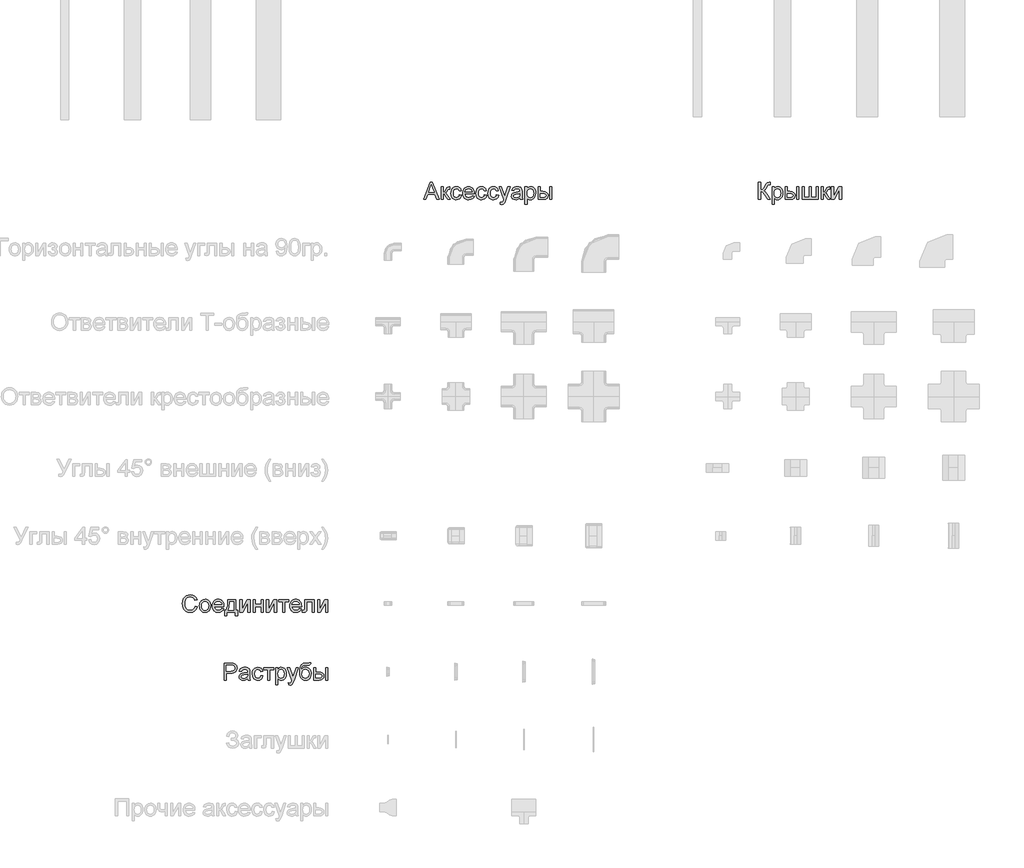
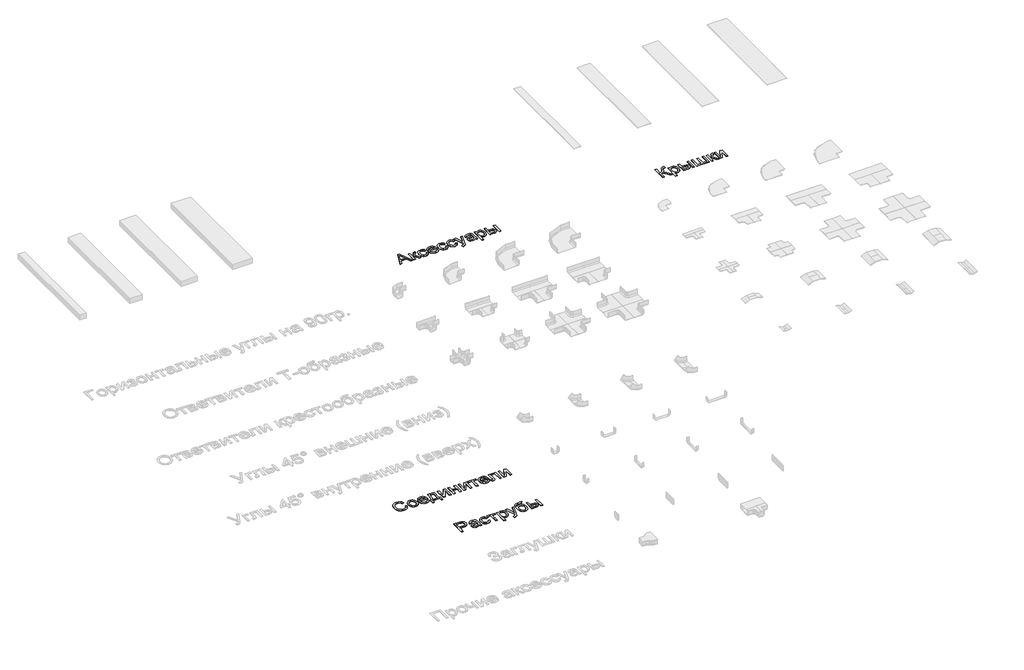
# One storey, part 9 of 11: 4 proxies.
"""IFC4 building model written with IfcOpenShell, lengths in millimetres."""

import ifcopenshell
import ifcopenshell.guid

model = None  # the IFC model being written
_history = None  # IfcOwnerHistory: only IFC2X3 demands one
_inside = {}  # id of a spatial element -> (the spatial element, [elements in it])
_under = {}  # id of a project, library or spatial element -> (it, [spatial elements below it])
_declared = {}  # id of a project -> (the project, [libraries it declares])
_typed = {}  # id of a type object -> (the type object, [elements of that type])
_made_of = {}  # id of a material, layer set ... -> (it, [elements and type objects made of it])


def new_model(schema):
    """Start an empty IFC model of exactly this schema.

    Asked for "IFC4X3", IfcOpenShell would pick the latest addendum, in which some entities
    have other attributes; the version numbers below select the first issue.
    IFC2X3 requires an IfcOwnerHistory on every rooted entity: one is made here for all.
    """
    global model, _history
    if schema == "IFC4X3":
        model = ifcopenshell.file(schema_version=(4, 3, 0, 0))
    else:
        model = ifcopenshell.file(schema=schema)
    _inside.clear()
    _under.clear()
    _declared.clear()
    _typed.clear()
    _made_of.clear()
    _history = None
    if model.schema == "IFC2X3":
        org = make("IfcOrganization", Name="unknown")
        user = make(
            "IfcPersonAndOrganization",
            ThePerson=make("IfcPerson", FamilyName="unknown"),
            TheOrganization=org,
        )
        app = make(
            "IfcApplication",
            ApplicationDeveloper=org,
            Version="unknown",
            ApplicationFullName="unknown",
            ApplicationIdentifier="unknown",
        )
        _history = make(
            "IfcOwnerHistory",
            OwningUser=user,
            OwningApplication=app,
            ChangeAction="ADDED",
            CreationDate=0,
        )
    return model


def make(cls, **values):
    """One entity of the class cls with the attributes given. An attribute that is None is left unset."""
    return model.create_entity(
        cls, **{name: value for name, value in values.items() if value is not None}
    )


def rooted(cls, **values):
    """An entity with a GlobalId (a new one), such as an element, a storey or a relation."""
    return make(cls, GlobalId=ifcopenshell.guid.new(), OwnerHistory=_history, **values)


def si_unit(unit_type, name, prefix=None):
    """IfcSIUnit, for example si_unit("LENGTHUNIT", "METRE", prefix="MILLI")."""
    return make("IfcSIUnit", UnitType=unit_type, Prefix=prefix, Name=name)


def assignment(units):
    """IfcUnitAssignment: the units of a project."""
    return None if units is None else make("IfcUnitAssignment", Units=units)


def point(xyz):
    """IfcCartesianPoint."""
    return None if xyz is None else make("IfcCartesianPoint", Coordinates=xyz)


def direction(xyz):
    """IfcDirection."""
    return None if xyz is None else make("IfcDirection", DirectionRatios=xyz)


def frame(location, z_axis=None, x_axis=None):
    """IfcAxis2Placement3D, a coordinate frame: its origin and axes. An axis left out is left unset."""
    return make(
        "IfcAxis2Placement3D",
        Location=point(location),
        Axis=direction(z_axis),
        RefDirection=direction(x_axis),
    )


def origin():
    """The frame at (0, 0, 0) with its axes left unset."""
    return frame((0.0, 0.0, 0.0))


def origin_with_axes():
    """The frame at (0, 0, 0) with the z axis (0, 0, 1) and the x axis (1, 0, 0) written out."""
    return frame((0.0, 0.0, 0.0), z_axis=(0.0, 0.0, 1.0), x_axis=(1.0, 0.0, 0.0))


def place(relative_to, where):
    """IfcLocalPlacement: puts the frame where relative to a parent placement (None: the world)."""
    return make(
        "IfcLocalPlacement", PlacementRelTo=relative_to, RelativePlacement=where
    )


def context(
    kind, dimensions, precision=None, world=None, true_north=None, identifier=None
):
    """IfcGeometricRepresentationContext, for example the 3D "Model" context."""
    return make(
        "IfcGeometricRepresentationContext",
        ContextIdentifier=identifier,
        ContextType=kind,
        CoordinateSpaceDimension=dimensions,
        Precision=precision,
        WorldCoordinateSystem=world,
        TrueNorth=true_north,
    )


def project(units=None, contexts=None):
    """IfcProject with its units and contexts."""
    return rooted(
        "IfcProject",
        Name="project",
        RepresentationContexts=contexts,
        UnitsInContext=assignment(units),
    )


def spatial(cls, under=None, at=None, **own):
    """A site, building, storey or space (cls), placed at a placement, below another one or the project."""
    s = rooted(cls, ObjectPlacement=at, **own)
    if under is not None:
        _under.setdefault(under.id(), (under, []))[1].append(s)
    return s


def polyline(points):
    """IfcPolyline through the points."""
    return make("IfcPolyline", Points=[point(p) for p in points])


def outline(outer, holes=None, kind="AREA"):
    """IfcArbitraryClosedProfileDef: a profile drawn as a closed curve; with holes, ...WithVoids."""
    if holes is None:
        return make("IfcArbitraryClosedProfileDef", ProfileType=kind, OuterCurve=outer)
    return make(
        "IfcArbitraryProfileDefWithVoids",
        ProfileType=kind,
        OuterCurve=outer,
        InnerCurves=holes,
    )


def extrude(swept, where, along, depth):
    """IfcExtrudedAreaSolid: the profile swept, set in the frame where, extruded along a direction by depth."""
    return make(
        "IfcExtrudedAreaSolid",
        SweptArea=swept,
        Position=where,
        ExtrudedDirection=direction(along),
        Depth=depth,
    )


def shape(context_of_items, identifier, shape_type, items):
    """IfcShapeRepresentation: the items that make up one representation, for example the "Body"."""
    return make(
        "IfcShapeRepresentation",
        ContextOfItems=context_of_items,
        RepresentationIdentifier=identifier,
        RepresentationType=shape_type,
        Items=items,
    )


def made_of(thing, what):
    """Note that an element or type object is made of a material, layer set ...; save() writes the relation."""
    if what is not None:
        _made_of.setdefault(what.id(), (what, []))[1].append(thing)
    return thing


def element(
    cls,
    number,
    at=None,
    inside=None,
    cuts=None,
    type_object=None,
    material=None,
    context=None,
    identifier="Body",
    shape_type=None,
    held_by="IfcProductDefinitionShape",
    body=None,
    shapes=None,
    **own,
):
    """One element of the class cls, such as IfcWall. Its Tag is "e" and its number.

    at: its placement. inside: the storey or other place that contains it. cuts: it is an
    opening in that element (IfcRelVoidsElement). A single representation is given by context,
    identifier, shape_type and body (its items); several are given by shapes. held_by: the class
    of the entity that holds the representations. save() writes the other relations.
    """
    e = rooted(cls, Tag="e%d" % number, ObjectPlacement=at, **own)
    if body is not None:
        shapes = [shape(context, identifier, shape_type, body)]
    if shapes is not None:
        e.Representation = make(held_by, Representations=shapes)
    if inside is not None:
        _inside.setdefault(inside.id(), (inside, []))[1].append(e)
    if cuts is not None:
        rooted(
            "IfcRelVoidsElement", RelatingBuildingElement=cuts, RelatedOpeningElement=e
        )
    if type_object is not None:
        _typed.setdefault(type_object.id(), (type_object, []))[1].append(e)
    return made_of(e, material)


def aggregate(whole, parts):
    """IfcRelAggregates: a whole, such as a stair, and the parts it consists of."""
    return rooted("IfcRelAggregates", RelatingObject=whole, RelatedObjects=parts)


def save(model, path):
    """Write the relations noted so far, then the file.

    IfcRelAggregates (storeys below a building ...), IfcRelContainedInSpatialStructure (elements
    in a storey), IfcRelDefinesByType, IfcRelAssociatesMaterial and IfcRelDeclares: one each for
    every whole, place, type object, material and project.
    """
    for whole, parts in _under.values():
        aggregate(whole, parts)
    for where, things in _inside.values():
        rooted(
            "IfcRelContainedInSpatialStructure",
            RelatedElements=things,
            RelatingStructure=where,
        )
    for kind, things in _typed.values():
        rooted("IfcRelDefinesByType", RelatedObjects=things, RelatingType=kind)
    for what, things in _made_of.values():
        rooted("IfcRelAssociatesMaterial", RelatedObjects=things, RelatingMaterial=what)
    for by, libraries in _declared.values():
        rooted("IfcRelDeclares", RelatingContext=by, RelatedDefinitions=libraries)
    model.write(path)


model = new_model("IFC4")

# Units and contexts
model_context = context("Model", 3, world=origin())
ifc_project = project(units=[si_unit("LENGTHUNIT", "METRE", prefix="MILLI")], contexts=[model_context])

# Site, building, storey
site = spatial("IfcSite", under=ifc_project)
building = spatial("IfcBuilding", under=site)
storey = spatial("IfcBuildingStorey", under=building, Name="Этаж 01", Elevation=0.0)

# Proxies
placement = place(None, origin())
element("IfcBuildingElementProxy", 1, Name="АБН_Маленькая надпись", ObjectType="АБН_Маленькая надпись", at=placement, inside=storey, context=model_context, shape_type="SweptSolid", body=[
    extrude(outline(polyline([(-13194.5346155, 7607.0938148), (-13094.2867718, 7858.2345901), (-13067.5540135, 7858.2345901), (-12967.3061698, 7607.0938148), (-13000.4768631, 7607.0938148), (-13029.2329724, 7685.5753071), (-13132.6691267, 7685.5753071), (-13161.3639223, 7607.0938148), (-13194.5346155, 7607.0938148)]), holes=[polyline([(-13121.1421575, 7716.967904), (-13040.6986279, 7716.967904), (-13063.3233706, 7778.7107655), (-13080.9203927, 7826.8419932), (-13096.5553775, 7784.1063681), (-13121.1421575, 7716.967904)])]), origin_with_axes(), (0.0, 0.0, 1.0), 5.0),
    extrude(outline(polyline([(-12937.6916692, 7791.5253217), (-12906.2990723, 7791.5253217), (-12906.2990723, 7713.0438294), (-12893.5305014, 7714.4540437), (-12885.2684849, 7718.6846866), (-12868.0393448, 7751.5488115), (-12853.7226038, 7779.906382), (-12841.0919887, 7789.1340887), (-12818.1300208, 7791.5253217), (-12812.1212815, 7791.5253217), (-12812.1212815, 7759.9487837), (-12820.5825674, 7760.1327247), (-12835.9109839, 7756.8217868), (-12846.7021891, 7736.1590814), (-12859.3634611, 7713.8102502), (-12877.1137673, 7702.8657608), (-12857.3094533, 7690.6490129), (-12837.8730212, 7664.9126017), (-12804.2731323, 7607.0938148), (-12839.9576858, 7607.0938148), (-12872.8831244, 7663.6863283), (-12889.4378142, 7687.6293149), (-12897.1786645, 7691.9749209), (-12906.2990723, 7693.4234563), (-12906.2990723, 7607.0938148), (-12937.6916692, 7607.0938148), (-12937.6916692, 7791.5253217)])), origin_with_axes(), (0.0, 0.0, 1.0), 5.0),
    extrude(outline(polyline([(-12666.9305208, 7673.8030832), (-12635.5379238, 7669.8790086), (-12644.2904497, 7641.958298), (-12660.7378405, 7620.8587327), (-12683.3319264, 7607.5919883), (-12710.5245372, 7603.1697401), (-12728.1311396, 7604.712162), (-12743.9174925, 7609.3394278), (-12757.8835959, 7617.0515373), (-12770.0294499, 7627.8484906), (-12779.860713, 7641.5271863), (-12786.8830438, 7657.8845227), (-12792.5009085, 7698.6351179), (-12790.1020113, 7726.5711569), (-12782.9053198, 7750.7823907), (-12770.7958707, 7770.3337859), (-12753.6587011, 7784.2903091), (-12733.1569441, 7792.6596245), (-12710.9537329, 7795.4493963), (-12684.4279082, 7791.6172922), (-12663.221044, 7780.1209798), (-12648.0075906, 7761.5735959), (-12639.4619985, 7736.5882771), (-12670.8545954, 7732.6642024), (-12676.5491021, 7746.3601426), (-12685.416591, 7756.1779933), (-12696.9665528, 7762.0870978), (-12710.7084782, 7764.0567994), (-12730.9956374, 7760.17871), (-12747.0981389, 7748.5444419), (-12757.6057684, 7728.52553), (-12761.1083115, 7699.4935092), (-12757.6824105, 7670.0706138), (-12747.4047072, 7649.982724), (-12731.5934456, 7638.4174338), (-12711.5668695, 7634.5623371), (-12695.3110839, 7636.9688984), (-12681.9830257, 7644.1885826), (-12672.2878023, 7656.4053305), (-12666.9305208, 7673.8030832)])), origin_with_axes(), (0.0, 0.0, 1.0), 5.0),
    extrude(outline(polyline([(-12478.9428212, 7662.0308594), (-12448.163361, 7658.1067847), (-12459.2534703, 7634.9148906), (-12476.9501271, 7617.5784516), (-12500.8547926, 7606.771918), (-12530.5689279, 7603.1697401), (-12550.0475131, 7604.7236584), (-12567.4031127, 7609.385413), (-12582.6357265, 7617.1550041), (-12595.7453547, 7628.0324316), (-12606.2874731, 7641.7149594), (-12613.8175577, 7657.8998511), (-12618.3356085, 7676.5871069), (-12619.8416254, 7697.7767266), (-12618.3202801, 7719.6848658), (-12613.7562441, 7738.9948384), (-12606.1495174, 7755.7066445), (-12595.5001, 7769.820284), (-12582.4249608, 7781.0330206), (-12567.5410684, 7789.0421182), (-12550.8484229, 7793.8475768), (-12532.3470242, 7795.4493963), (-12514.4415177, 7793.8514089), (-12498.2489618, 7789.0574466), (-12483.7693564, 7781.0675095), (-12471.0027015, 7769.8815976), (-12460.5812944, 7755.798615), (-12453.1374321, 7739.1174658), (-12448.6711148, 7719.83815), (-12447.1823423, 7697.9606676), (-12447.3662833, 7689.4993817), (-12588.4490285, 7689.4993817), (-12583.0151048, 7666.0009192), (-12570.3921539, 7648.7257939), (-12552.1743309, 7638.1032013), (-12529.9557912, 7634.5623371), (-12513.2478173, 7636.2024776), (-12499.176331, 7641.1228993), (-12487.7413323, 7649.6301704), (-12478.9428212, 7662.0308594)]), holes=[polyline([(-12588.4490285, 7720.8919786), (-12478.5749392, 7720.8919786), (-12482.8209106, 7737.4773252), (-12491.1442407, 7749.3415196), (-12509.44637, 7760.3779794), (-12532.4696515, 7764.0567994), (-12553.6305305, 7761.1214076), (-12571.1279179, 7752.3152323), (-12583.2910163, 7738.5886354), (-12588.4490285, 7720.8919786)])]), origin_with_axes(), (0.0, 0.0, 1.0), 5.0),
    extrude(outline(polyline([(-12298.0675069, 7673.8030832), (-12266.67491, 7669.8790086), (-12275.4274358, 7641.958298), (-12291.8748267, 7620.8587327), (-12314.4689126, 7607.5919883), (-12341.6615234, 7603.1697401), (-12359.2681257, 7604.712162), (-12375.0544786, 7609.3394278), (-12389.0205821, 7617.0515373), (-12401.1664361, 7627.8484906), (-12410.9976992, 7641.5271863), (-12418.02003, 7657.8845227), (-12423.6378946, 7698.6351179), (-12421.2389975, 7726.5711569), (-12414.0423059, 7750.7823907), (-12401.9328569, 7770.3337859), (-12384.7956873, 7784.2903091), (-12364.2939303, 7792.6596245), (-12342.090719, 7795.4493963), (-12315.5648943, 7791.6172922), (-12294.3580302, 7780.1209798), (-12279.1445768, 7761.5735959), (-12270.5989846, 7736.5882771), (-12301.9915816, 7732.6642024), (-12307.6860883, 7746.3601426), (-12316.5535772, 7756.1779933), (-12328.103539, 7762.0870978), (-12341.8454644, 7764.0567994), (-12362.1326236, 7760.17871), (-12378.2351251, 7748.5444419), (-12388.7427545, 7728.52553), (-12392.2452977, 7699.4935092), (-12388.8193966, 7670.0706138), (-12378.5416934, 7649.982724), (-12362.7304318, 7638.4174338), (-12342.7038557, 7634.5623371), (-12326.44807, 7636.9688984), (-12313.1200119, 7644.1885826), (-12303.4247885, 7656.4053305), (-12298.0675069, 7673.8030832)])), origin_with_axes(), (0.0, 0.0, 1.0), 5.0),
    extrude(outline(polyline([(-12121.4841493, 7673.8030832), (-12090.0915523, 7669.8790086), (-12098.8440781, 7641.958298), (-12115.291469, 7620.8587327), (-12137.8855549, 7607.5919883), (-12165.0781657, 7603.1697401), (-12182.684768, 7604.712162), (-12198.471121, 7609.3394278), (-12212.4372244, 7617.0515373), (-12224.5830784, 7627.8484906), (-12234.4143415, 7641.5271863), (-12241.4366723, 7657.8845227), (-12247.0545369, 7698.6351179), (-12244.6556398, 7726.5711569), (-12237.4589482, 7750.7823907), (-12225.3494992, 7770.3337859), (-12208.2123296, 7784.2903091), (-12187.7105726, 7792.6596245), (-12165.5073613, 7795.4493963), (-12138.9815367, 7791.6172922), (-12117.7746725, 7780.1209798), (-12102.5612191, 7761.5735959), (-12094.0156269, 7736.5882771), (-12125.4082239, 7732.6642024), (-12131.1027306, 7746.3601426), (-12139.9702195, 7756.1779933), (-12151.5201813, 7762.0870978), (-12165.2621067, 7764.0567994), (-12185.5492659, 7760.17871), (-12201.6517674, 7748.5444419), (-12212.1593969, 7728.52553), (-12215.66194, 7699.4935092), (-12212.2360389, 7670.0706138), (-12201.9583357, 7649.982724), (-12186.1470741, 7638.4174338), (-12166.120498, 7634.5623371), (-12149.8647123, 7636.9688984), (-12136.5366542, 7644.1885826), (-12126.8414308, 7656.4053305), (-12121.4841493, 7673.8030832)])), origin_with_axes(), (0.0, 0.0, 1.0), 5.0),
    extrude(outline(polyline([(-12062.62303, 7536.4604717), (-12066.5471046, 7566.6881089), (-12050.6055515, 7563.928994), (-12035.7063307, 7567.3932161), (-12026.5705945, 7577.0501185), (-12017.9866813, 7600.1653705), (-12015.5341346, 7607.7682651), (-12082.2434031, 7791.5253217), (-12049.1340235, 7791.5253217), (-12013.7560383, 7689.1314997), (-12001.4319915, 7648.1739709), (-11989.1079447, 7684.3490337), (-11952.7489408, 7791.5253217), (-11919.8848159, 7791.5253217), (-11984.0802241, 7602.6792308), (-12000.7575412, 7561.721702), (-12009.2954691, 7548.6465628), (-12018.9676999, 7539.5874686), (-12030.2034292, 7534.299165), (-12043.4318526, 7532.5363971), (-12062.62303, 7536.4604717)])), origin_with_axes(), (0.0, 0.0, 1.0), 5.0),
    extrude(outline(polyline([(-11776.1655831, 7630.6382624), (-11791.1644386, 7617.777721), (-11806.6078182, 7609.3624204), (-11822.8482755, 7604.7179102), (-11840.2383639, 7603.1697401), (-11866.4729487, 7606.8945453), (-11885.8250745, 7618.0689609), (-11897.7582467, 7635.037518), (-11901.7359708, 7656.1447474), (-11900.233786, 7669.158573), (-11895.7272315, 7680.9767821), (-11879.9389626, 7699.0029999), (-11857.9580134, 7709.3036957), (-11830.7960594, 7714.024848), (-11776.3495241, 7724.8160532), (-11776.1655831, 7731.8058111), (-11778.3268898, 7745.8159838), (-11784.81081, 7754.9823768), (-11799.311492, 7761.7881937), (-11819.5143449, 7764.0567994), (-11838.215013, 7762.5469503), (-11851.2748238, 7758.0174033), (-11860.1806338, 7749.6404237), (-11866.4192993, 7736.5882771), (-11897.8118962, 7740.5123517), (-11892.3626441, 7757.6801781), (-11884.2309192, 7771.1691846), (-11872.6579648, 7781.4852089), (-11856.8850242, 7789.1340887), (-11837.5942121, 7793.8705694), (-11815.4676429, 7795.4493963), (-11794.2454503, 7794.0545104), (-11777.4225133, 7789.8698527), (-11764.7382486, 7783.5775377), (-11755.9320734, 7775.85968), (-11746.3058278, 7754.5531812), (-11744.7729862, 7727.0846588), (-11744.7729862, 7688.0278537), (-11743.1788309, 7633.4893479), (-11736.924837, 7607.0938148), (-11768.3174339, 7607.0938148), (-11776.1655831, 7630.6382624)]), holes=[polyline([(-11776.1655831, 7693.4234563), (-11826.8106711, 7683.7972107), (-11853.8193409, 7678.7081765), (-11866.0514173, 7670.4308316), (-11870.3433739, 7658.3520394), (-11868.0057904, 7649.0170338), (-11860.9930398, 7641.368154), (-11849.4584064, 7636.2637913), (-11833.5551744, 7634.5623371), (-11816.6939163, 7636.4400681), (-11801.7946954, 7642.0732611), (-11789.7159033, 7650.3735986), (-11781.315931, 7660.2527631), (-11777.5911258, 7670.4308316), (-11776.3495241, 7684.5329747), (-11776.1655831, 7693.4234563)])]), origin_with_axes(), (0.0, 0.0, 1.0), 5.0),
    extrude(outline(polyline([(-11701.6081654, 7536.4604717), (-11701.6081654, 7791.5253217), (-11670.2155685, 7791.5253217), (-11670.2155685, 7760.7458614), (-11659.9761863, 7775.9286579), (-11648.5105308, 7786.7735126), (-11635.1441516, 7793.2804254), (-11619.2025985, 7795.4493963), (-11597.9727417, 7792.4143698), (-11579.4100294, 7783.3092904), (-11564.2962107, 7768.6859811), (-11553.413035, 7749.0962649), (-11546.8371444, 7725.9656844), (-11544.6451808, 7700.7197825), (-11547.1207201, 7673.8720611), (-11554.5473379, 7649.8600967), (-11566.6874437, 7629.9024985), (-11583.3034471, 7615.2178755), (-11602.6555729, 7606.181774), (-11623.0040458, 7603.1697401), (-11637.4357499, 7605.1854269), (-11650.3192839, 7611.2324872), (-11670.2155685, 7631.6192811), (-11670.2155685, 7536.4604717), (-11701.6081654, 7536.4604717)]), holes=[polyline([(-11670.2155685, 7697.8380402), (-11666.8203243, 7669.6950676), (-11656.6345915, 7650.0133809), (-11641.6050792, 7638.425098), (-11623.6784961, 7634.5623371), (-11605.4606731, 7638.5630538), (-11590.0479504, 7650.5652038), (-11579.5403209, 7670.9673262), (-11576.0377777, 7700.1679595), (-11579.4560146, 7728.157648), (-11589.7107252, 7748.1152462), (-11604.7172449, 7760.0714111), (-11622.3909091, 7764.0567994), (-11640.1335512, 7759.8184922), (-11655.7148865, 7747.1035707), (-11666.590398, 7726.3105738), (-11670.2155685, 7697.8380402)])]), origin_with_axes(), (0.0, 0.0, 1.0), 5.0),
    extrude(outline(polyline([(-11336.6692262, 7791.5253217), (-11305.2766293, 7791.5253217), (-11305.2766293, 7607.0938148), (-11336.6692262, 7607.0938148), (-11336.6692262, 7791.5253217)])), origin_with_axes(), (0.0, 0.0, 1.0), 5.0),
    extrude(outline(polyline([(-11509.3285093, 7791.5253217), (-11477.9359124, 7791.5253217), (-11477.9359124, 7724.8160532), (-11439.1243619, 7724.8160532), (-11405.5781224, 7720.8843144), (-11380.7230951, 7709.0890979), (-11365.3410292, 7690.3807656), (-11360.2136739, 7665.7096793), (-11364.5132947, 7643.245885), (-11377.4121572, 7624.292298), (-11399.7533242, 7611.3934356), (-11432.3798586, 7607.0938148), (-11509.3285093, 7607.0938148), (-11509.3285093, 7791.5253217)]), holes=[polyline([(-11477.9359124, 7638.4864117), (-11445.6849241, 7638.4864117), (-11420.6842769, 7640.1342164), (-11404.052945, 7645.0776308), (-11394.7179394, 7653.515924), (-11391.6062708, 7665.6483657), (-11393.9131975, 7675.9030763), (-11400.8339775, 7684.9621704), (-11415.6335636, 7691.3081348), (-11441.5769085, 7693.4234563), (-11477.9359124, 7693.4234563), (-11477.9359124, 7638.4864117)])]), origin_with_axes(), (0.0, 0.0, 1.0), 5.0),
])
element("IfcBuildingElementProxy", 2, Name="АБН_Маленькая надпись", ObjectType="АБН_Маленькая надпись", at=placement, inside=storey, context=model_context, shape_type="SweptSolid", body=[
    extrude(outline(polyline([(-8265.2879969, 7858.2345901), (-8233.8954, 7858.2345901), (-8233.8954, 7748.3605009), (-8212.6425506, 7750.4375013), (-8198.7933263, 7756.6685026), (-8187.595918, 7771.330133), (-8174.2985168, 7798.6990206), (-8156.9774062, 7833.8010943), (-8137.3570331, 7851.1835186), (-8123.9829897, 7856.4718222), (-8109.3060309, 7858.2345901), (-8088.7046392, 7857.8667081), (-8088.7046392, 7826.4741112), (-8095.6330835, 7826.6580522), (-8102.5615277, 7826.8419932), (-8116.9395823, 7824.956598), (-8127.086994, 7819.3004123), (-8135.8241914, 7807.4208895), (-8145.7263485, 7786.9881104), (-8157.8741185, 7761.5429391), (-8167.9525523, 7747.6247369), (-8189.6269332, 7734.6262397), (-8177.4676669, 7729.4528992), (-8165.3927068, 7720.4321261), (-8141.4957055, 7690.8482823), (-8088.7046392, 7607.0938148), (-8125.1249567, 7607.0938148), (-8169.7613055, 7677.8497852), (-8201.1845592, 7714.7912688), (-8215.6929054, 7722.3098571), (-8233.8954, 7724.8160532), (-8233.8954, 7607.0938148), (-8265.2879969, 7607.0938148), (-8265.2879969, 7858.2345901)])), origin_with_axes(), (0.0, 0.0, 1.0), 5.0),
    extrude(outline(polyline([(-8065.1601915, 7536.4604717), (-8065.1601915, 7791.5253217), (-8033.7675946, 7791.5253217), (-8033.7675946, 7760.7458614), (-8023.5282124, 7775.9286579), (-8012.0625569, 7786.7735126), (-7998.6961777, 7793.2804254), (-7982.7546246, 7795.4493963), (-7961.5247678, 7792.4143698), (-7942.9620555, 7783.3092904), (-7927.8482368, 7768.6859811), (-7916.9650611, 7749.0962649), (-7910.3891705, 7725.9656844), (-7908.1972069, 7700.7197825), (-7910.6727462, 7673.8720611), (-7918.099364, 7649.8600967), (-7930.2394698, 7629.9024985), (-7946.8554732, 7615.2178755), (-7966.207599, 7606.181774), (-7986.5560719, 7603.1697401), (-8000.987776, 7605.1854269), (-8013.87131, 7611.2324872), (-8033.7675946, 7631.6192811), (-8033.7675946, 7536.4604717), (-8065.1601915, 7536.4604717)]), holes=[polyline([(-8033.7675946, 7697.8380402), (-8030.3723504, 7669.6950676), (-8020.1866176, 7650.0133809), (-8005.1571053, 7638.425098), (-7987.2305222, 7634.5623371), (-7969.0126992, 7638.5630538), (-7953.5999765, 7650.5652038), (-7943.092347, 7670.9673262), (-7939.5898038, 7700.1679595), (-7943.0080407, 7728.157648), (-7953.2627513, 7748.1152462), (-7968.269271, 7760.0714111), (-7985.9429352, 7764.0567994), (-8003.6855773, 7759.8184922), (-8019.2669126, 7747.1035707), (-8030.1424241, 7726.3105738), (-8033.7675946, 7697.8380402)])]), origin_with_axes(), (0.0, 0.0, 1.0), 5.0),
    extrude(outline(polyline([(-7700.2212523, 7791.5253217), (-7668.8286554, 7791.5253217), (-7668.8286554, 7607.0938148), (-7700.2212523, 7607.0938148), (-7700.2212523, 7791.5253217)])), origin_with_axes(), (0.0, 0.0, 1.0), 5.0),
    extrude(outline(polyline([(-7872.8805354, 7791.5253217), (-7841.4879385, 7791.5253217), (-7841.4879385, 7724.8160532), (-7802.676388, 7724.8160532), (-7769.1301485, 7720.8843144), (-7744.2751212, 7709.0890979), (-7728.8930553, 7690.3807656), (-7723.7657, 7665.7096793), (-7728.0653208, 7643.245885), (-7740.9641833, 7624.292298), (-7763.3053503, 7611.3934356), (-7795.9318847, 7607.0938148), (-7872.8805354, 7607.0938148), (-7872.8805354, 7791.5253217)]), holes=[polyline([(-7841.4879385, 7638.4864117), (-7809.2369502, 7638.4864117), (-7784.236303, 7640.1342164), (-7767.6049711, 7645.0776308), (-7758.2699655, 7653.515924), (-7755.1582969, 7665.6483657), (-7757.4652236, 7675.9030763), (-7764.3860036, 7684.9621704), (-7779.1855897, 7691.3081348), (-7805.1289346, 7693.4234563), (-7841.4879385, 7693.4234563), (-7841.4879385, 7638.4864117)])]), origin_with_axes(), (0.0, 0.0, 1.0), 5.0),
    extrude(outline(polyline([(-7621.73976, 7791.5253217), (-7590.3471631, 7791.5253217), (-7590.3471631, 7638.4864117), (-7519.71382, 7638.4864117), (-7519.71382, 7791.5253217), (-7488.3212231, 7791.5253217), (-7488.3212231, 7638.4864117), (-7417.68788, 7638.4864117), (-7417.68788, 7791.5253217), (-7386.2952831, 7791.5253217), (-7386.2952831, 7607.0938148), (-7621.73976, 7607.0938148), (-7621.73976, 7791.5253217)])), origin_with_axes(), (0.0, 0.0, 1.0), 5.0),
    extrude(outline(polyline([(-7343.1304623, 7791.5253217), (-7311.7378654, 7791.5253217), (-7311.7378654, 7713.0438294), (-7298.9692945, 7714.4540437), (-7290.707278, 7718.6846866), (-7273.4781379, 7751.5488115), (-7259.1613969, 7779.906382), (-7246.5307818, 7789.1340887), (-7223.5688139, 7791.5253217), (-7217.5600746, 7791.5253217), (-7217.5600746, 7759.9487837), (-7226.0213605, 7760.1327247), (-7241.349777, 7756.8217868), (-7252.1409822, 7736.1590814), (-7264.8022542, 7713.8102502), (-7282.5525605, 7702.8657608), (-7262.7482464, 7690.6490129), (-7243.3118143, 7664.9126017), (-7209.7119254, 7607.0938148), (-7245.3964789, 7607.0938148), (-7278.3219175, 7663.6863283), (-7294.8766073, 7687.6293149), (-7302.6174576, 7691.9749209), (-7311.7378654, 7693.4234563), (-7311.7378654, 7607.0938148), (-7343.1304623, 7607.0938148), (-7343.1304623, 7791.5253217)])), origin_with_axes(), (0.0, 0.0, 1.0), 5.0),
    extrude(outline(polyline([(-7190.0915523, 7791.5253217), (-7158.6989554, 7791.5253217), (-7158.6989554, 7650.8717722), (-7081.5663638, 7791.5253217), (-7040.976717, 7791.5253217), (-7040.976717, 7607.0938148), (-7072.3693139, 7607.0938148), (-7072.3693139, 7746.8889729), (-7149.0113962, 7607.0938148), (-7190.0915523, 7607.0938148), (-7190.0915523, 7791.5253217)])), origin_with_axes(), (0.0, 0.0, 1.0), 5.0),
])
element("IfcBuildingElementProxy", 3, Name="АБН_Маленькая надпись", ObjectType="АБН_Маленькая надпись", at=placement, inside=storey, context=model_context, shape_type="SweptSolid", body=[
    extrude(outline(polyline([(-16556.5908726, 1620.8022548), (-16525.1982757, 1612.7088509), (-16539.6836293, 1576.127585), (-16562.4156709, 1549.4024909), (-16592.2754262, 1533.0547347), (-16628.1439207, 1527.6054827), (-16664.556574, 1531.7288267), (-16693.4736317, 1544.0988588), (-16715.6385219, 1564.2863833), (-16731.7946728, 1591.8622045), (-16741.6585088, 1624.2818053), (-16744.9464542, 1659.0006686), (-16741.2293132, 1695.6202555), (-16730.0778902, 1727.2427787), (-16712.074665, 1752.8642268), (-16687.8021176, 1771.4805886), (-16659.0153515, 1782.8159526), (-16627.4694704, 1786.5944073), (-16593.0495112, 1781.7046424), (-16564.592306, 1767.0353479), (-16542.986903, 1743.4909002), (-16529.1223503, 1711.9756759), (-16560.5149472, 1704.4954087), (-16571.3981229, 1727.3883987), (-16586.2666869, 1743.0923613), (-16605.3045802, 1752.1744481), (-16628.6957437, 1755.2018103), (-16655.6584282, 1751.8448871), (-16677.80799, 1741.7741175), (-16694.6155987, 1726.0471622), (-16705.5524238, 1705.721682), (-16711.5534989, 1682.7443857), (-16713.5538572, 1659.0619823), (-16711.1856169, 1630.0606183), (-16704.0808959, 1604.983329), (-16691.9714469, 1584.7881403), (-16674.5890226, 1570.4330783), (-16653.7500404, 1561.8568293), (-16631.2709177, 1558.9980796), (-16605.0669897, 1562.8914974), (-16583.2316604, 1574.5717507), (-16566.7459485, 1593.9162123), (-16556.5908726, 1620.8022548)])), origin_with_axes(), (0.0, 0.0, 1.0), 5.0),
    extrude(outline(polyline([(-16493.8056788, 1623.7453107), (-16492.1080567, 1647.6308157), (-16487.0151903, 1668.2130469), (-16478.5270797, 1685.4920044), (-16466.6437248, 1699.4676881), (-16441.474465, 1714.7807761), (-16411.3387982, 1719.8851388), (-16394.0196036, 1718.3312206), (-16378.3597102, 1713.6694659), (-16364.3591178, 1705.8998748), (-16352.0178265, 1695.0224473), (-16341.9451408, 1681.4050653), (-16334.7503653, 1665.4156109), (-16330.4335, 1647.054084), (-16328.9945449, 1626.3204847), (-16331.5390621, 1594.605991), (-16339.1726135, 1570.4637351), (-16351.6729371, 1552.3838679), (-16368.8177709, 1538.8565403), (-16389.1815722, 1530.4182471), (-16411.3387982, 1527.6054827), (-16428.9109116, 1529.1536527), (-16444.7164251, 1533.7981629), (-16458.7553385, 1541.5390132), (-16471.0276519, 1552.3762037), (-16480.9930387, 1566.1257932), (-16488.1111721, 1582.6038409), (-16492.3820521, 1601.8103468), (-16493.8056788, 1623.7453107)]), holes=[polyline([(-16462.4130819, 1623.8066244), (-16458.7802472, 1595.3954045), (-16447.8817431, 1575.1542305), (-16431.4803374, 1563.0371173), (-16411.3387982, 1558.9980796), (-16391.2892295, 1563.0601099), (-16374.9184807, 1575.246201), (-16364.0199766, 1595.7556223), (-16360.3871419, 1624.7876431), (-16364.0429692, 1652.3711285), (-16375.0104512, 1672.3363909), (-16391.4041926, 1684.4535041), (-16411.3387982, 1688.4925419), (-16431.4803374, 1684.4688326), (-16447.8817431, 1672.3977046), (-16458.7802472, 1652.2025159), (-16462.4130819, 1623.8066244)])]), origin_with_axes(), (0.0, 0.0, 1.0), 5.0),
    extrude(outline(polyline([(-16164.5512931, 1586.4666019), (-16133.7718328, 1582.5425273), (-16144.8619422, 1559.3506332), (-16162.558599, 1542.0141941), (-16186.4632644, 1531.2076605), (-16216.1773998, 1527.6054827), (-16235.655985, 1529.1594009), (-16253.0115845, 1533.8211555), (-16268.2441984, 1541.5907466), (-16281.3538266, 1552.4681742), (-16291.895945, 1566.1507019), (-16299.4260296, 1582.3355937), (-16303.9440803, 1601.0228494), (-16305.4500973, 1622.2124691), (-16303.9287519, 1644.1206083), (-16299.3647159, 1663.430581), (-16291.7579892, 1680.142387), (-16281.1085719, 1694.2560265), (-16268.0334327, 1705.4687631), (-16253.1495403, 1713.4778607), (-16236.4568947, 1718.2833193), (-16217.9554961, 1719.8851388), (-16200.0499896, 1718.2871514), (-16183.8574336, 1713.4931891), (-16169.3778282, 1705.5032521), (-16156.6111734, 1694.3173401), (-16146.1897662, 1680.2343575), (-16138.745904, 1663.5532083), (-16134.2795866, 1644.2738925), (-16132.7908142, 1622.3964101), (-16132.9747552, 1613.9351242), (-16274.0575003, 1613.9351242), (-16268.6235767, 1590.4366618), (-16256.0006257, 1573.1615364), (-16237.7828028, 1562.5389438), (-16215.5642631, 1558.9980796), (-16198.8562892, 1560.6382201), (-16184.7848028, 1565.5586418), (-16173.3498042, 1574.065913), (-16164.5512931, 1586.4666019)]), holes=[polyline([(-16274.0575003, 1645.3277211), (-16164.1834111, 1645.3277211), (-16168.4293825, 1661.9130677), (-16176.7527126, 1673.7772621), (-16195.0548419, 1684.8137219), (-16218.0781234, 1688.4925419), (-16239.2390023, 1685.5571501), (-16256.7363897, 1676.7509749), (-16268.8994882, 1663.0243779), (-16274.0575003, 1645.3277211)])]), origin_with_axes(), (0.0, 0.0, 1.0), 5.0),
    extrude(outline(polyline([(-16073.929695, 1715.9610642), (-15956.2074565, 1715.9610642), (-15956.2074565, 1562.9221542), (-15932.6630088, 1562.9221542), (-15932.6630088, 1480.5165873), (-15964.0556057, 1480.5165873), (-15964.0556057, 1531.5295573), (-16093.550068, 1531.5295573), (-16093.550068, 1480.5165873), (-16124.942665, 1480.5165873), (-16124.942665, 1562.9221542), (-16105.3222919, 1562.9221542), (-16091.0592004, 1588.6968865), (-16081.072737, 1622.7949489), (-16075.3629019, 1665.2163415), (-16073.929695, 1715.9610642)]), holes=[polyline([(-16046.4611727, 1684.5684673), (-16053.8188126, 1613.046076), (-16060.8085705, 1585.3093064), (-16070.0056203, 1562.9221542), (-15987.6000534, 1562.9221542), (-15987.6000534, 1684.5684673), (-16046.4611727, 1684.5684673)])]), origin_with_axes(), (0.0, 0.0, 1.0), 5.0),
    extrude(outline(polyline([(-15897.3463373, 1715.9610642), (-15865.9537404, 1715.9610642), (-15865.9537404, 1575.3075147), (-15788.8211487, 1715.9610642), (-15748.2315019, 1715.9610642), (-15748.2315019, 1531.5295573), (-15779.6240988, 1531.5295573), (-15779.6240988, 1671.3247154), (-15856.2661811, 1531.5295573), (-15897.3463373, 1531.5295573), (-15897.3463373, 1715.9610642)])), origin_with_axes(), (0.0, 0.0, 1.0), 5.0),
    extrude(outline(polyline([(-15701.1426065, 1715.9610642), (-15669.7500096, 1715.9610642), (-15669.7500096, 1645.3277211), (-15587.3444427, 1645.3277211), (-15587.3444427, 1715.9610642), (-15555.9518457, 1715.9610642), (-15555.9518457, 1531.5295573), (-15587.3444427, 1531.5295573), (-15587.3444427, 1613.9351242), (-15669.7500096, 1613.9351242), (-15669.7500096, 1531.5295573), (-15701.1426065, 1531.5295573), (-15701.1426065, 1715.9610642)])), origin_with_axes(), (0.0, 0.0, 1.0), 5.0),
    extrude(outline(polyline([(-15508.8629504, 1715.9610642), (-15477.4703534, 1715.9610642), (-15477.4703534, 1575.3075147), (-15400.3377618, 1715.9610642), (-15359.748115, 1715.9610642), (-15359.748115, 1531.5295573), (-15391.1407119, 1531.5295573), (-15391.1407119, 1671.3247154), (-15467.7827942, 1531.5295573), (-15508.8629504, 1531.5295573), (-15508.8629504, 1715.9610642)])), origin_with_axes(), (0.0, 0.0, 1.0), 5.0),
    extrude(outline(polyline([(-15328.3555181, 1715.9610642), (-15179.2406827, 1715.9610642), (-15179.2406827, 1684.5684673), (-15238.1018019, 1684.5684673), (-15238.1018019, 1531.5295573), (-15269.4943988, 1531.5295573), (-15269.4943988, 1684.5684673), (-15328.3555181, 1684.5684673), (-15328.3555181, 1715.9610642)])), origin_with_axes(), (0.0, 0.0, 1.0), 5.0),
    extrude(outline(polyline([(-15022.6455801, 1586.4666019), (-14991.8661198, 1582.5425273), (-15002.9562291, 1559.3506332), (-15020.6528859, 1542.0141941), (-15044.5575514, 1531.2076605), (-15074.2716867, 1527.6054827), (-15093.750272, 1529.1594009), (-15111.1058715, 1533.8211555), (-15126.3384854, 1541.5907466), (-15139.4481135, 1552.4681742), (-15149.990232, 1566.1507019), (-15157.5203166, 1582.3355937), (-15162.0383673, 1601.0228494), (-15163.5443842, 1622.2124691), (-15162.0230389, 1644.1206083), (-15157.4590029, 1663.430581), (-15149.8522762, 1680.142387), (-15139.2028589, 1694.2560265), (-15126.1277196, 1705.4687631), (-15111.2438272, 1713.4778607), (-15094.5511817, 1718.2833193), (-15076.049783, 1719.8851388), (-15058.1442766, 1718.2871514), (-15041.9517206, 1713.4931891), (-15027.4721152, 1705.5032521), (-15014.7054603, 1694.3173401), (-15004.2840532, 1680.2343575), (-14996.840191, 1663.5532083), (-14992.3738736, 1644.2738925), (-14990.8851012, 1622.3964101), (-14991.0690422, 1613.9351242), (-15132.1517873, 1613.9351242), (-15126.7178637, 1590.4366618), (-15114.0949127, 1573.1615364), (-15095.8770897, 1562.5389438), (-15073.6585501, 1558.9980796), (-15056.9505761, 1560.6382201), (-15042.8790898, 1565.5586418), (-15031.4440911, 1574.065913), (-15022.6455801, 1586.4666019)]), holes=[polyline([(-15132.1517873, 1645.3277211), (-15022.2776981, 1645.3277211), (-15026.5236694, 1661.9130677), (-15034.8469996, 1673.7772621), (-15053.1491288, 1684.8137219), (-15076.1724104, 1688.4925419), (-15097.3332893, 1685.5571501), (-15114.8306767, 1676.7509749), (-15126.9937752, 1663.0243779), (-15132.1517873, 1645.3277211)])]), origin_with_axes(), (0.0, 0.0, 1.0), 5.0),
    extrude(outline(polyline([(-14943.7962058, 1715.9610642), (-14802.5295196, 1715.9610642), (-14802.5295196, 1531.7134983), (-14833.9221165, 1531.7134983), (-14833.9221165, 1684.5684673), (-14912.4036089, 1684.5684673), (-14912.4036089, 1596.5833568), (-14914.5189303, 1555.99371), (-14918.481326, 1546.8043243), (-14926.13787, 1538.8565403), (-14937.7568097, 1533.361303), (-14953.6063923, 1531.5295573), (-14979.1128773, 1533.1237126), (-14979.1128773, 1562.9221542), (-14965.0720478, 1562.9221542), (-14950.8779342, 1564.8535347), (-14945.2064201, 1570.9849013), (-14943.7962058, 1598.3614531), (-14943.7962058, 1715.9610642)])), origin_with_axes(), (0.0, 0.0, 1.0), 5.0),
    extrude(outline(polyline([(-14755.4406242, 1715.9610642), (-14724.0480273, 1715.9610642), (-14724.0480273, 1575.3075147), (-14646.9154357, 1715.9610642), (-14606.3257889, 1715.9610642), (-14606.3257889, 1531.5295573), (-14637.7183858, 1531.5295573), (-14637.7183858, 1671.3247154), (-14714.3604681, 1531.5295573), (-14755.4406242, 1531.5295573), (-14755.4406242, 1715.9610642)])), origin_with_axes(), (0.0, 0.0, 1.0), 5.0),
])
element("IfcBuildingElementProxy", 4, Name="АБН_Маленькая надпись", ObjectType="АБН_Маленькая надпись", at=placement, inside=storey, context=model_context, shape_type="SweptSolid", body=[
    extrude(outline(polyline([(-16128.8667396, 531.5295573), (-16128.8667396, 782.6703326), (-16035.7925948, 782.6703326), (-15998.2686313, 780.2790997), (-15981.5376647, 775.8108663), (-15967.7650825, 768.5375327), (-15956.6749732, 758.1295379), (-15947.9914253, 744.257321), (-15942.3812248, 727.8942364), (-15940.511158, 710.0136386), (-15945.5618713, 680.4144664), (-15960.7140109, 655.7510443), (-15972.8483686, 646.0404925), (-15989.0485888, 639.104384), (-16009.3146714, 634.942719), (-16033.6466165, 633.5554973), (-16097.4741426, 633.5554973), (-16097.4741426, 531.5295573), (-16128.8667396, 531.5295573)]), holes=[polyline([(-16097.4741426, 664.9480942), (-16031.8072065, 664.9480942), (-16003.9708022, 667.8298365), (-15985.5767024, 676.4750634), (-15975.3219918, 690.3472803), (-15971.903755, 708.9099926), (-15973.9194417, 723.0121358), (-15979.966502, 734.9069869), (-15989.2938434, 743.8587822), (-16001.1503736, 749.1317574), (-16032.5429705, 751.2777357), (-16097.4741426, 751.2777357), (-16097.4741426, 664.9480942)])]), origin_with_axes(), (0.0, 0.0, 1.0), 5.0),
    extrude(outline(polyline([(-15783.5481734, 555.074005), (-15798.5470289, 542.2134636), (-15813.9904085, 533.7981629), (-15830.2308658, 529.1536527), (-15847.6209543, 527.6054827), (-15873.855539, 531.3302879), (-15893.2076648, 542.5047035), (-15905.140837, 559.4732605), (-15909.1185611, 580.58049), (-15907.6163763, 593.5943155), (-15903.1098219, 605.4125246), (-15887.3215529, 623.4387424), (-15865.3406037, 633.7394383), (-15838.1786497, 638.4605905), (-15783.7321144, 649.2517957), (-15783.5481734, 656.2415536), (-15785.7094802, 670.2517263), (-15792.1934003, 679.4181193), (-15806.6940823, 686.2239362), (-15826.8969352, 688.4925419), (-15845.5976033, 686.9826929), (-15858.6574141, 682.4531458), (-15867.5632241, 674.0761662), (-15873.8018896, 661.0240196), (-15905.1944865, 664.9480942), (-15899.7452345, 682.1159206), (-15891.6135095, 695.6049271), (-15880.0405551, 705.9209514), (-15864.2676145, 713.5698312), (-15844.9768024, 718.3063119), (-15822.8502333, 719.8851388), (-15801.6280407, 718.4902529), (-15784.8051036, 714.3055952), (-15772.120839, 708.0132803), (-15763.3146637, 700.2954226), (-15753.6884182, 678.9889237), (-15752.1555765, 651.5204014), (-15752.1555765, 612.4635962), (-15750.5614212, 557.9250904), (-15744.3074273, 531.5295573), (-15775.7000242, 531.5295573), (-15783.5481734, 555.074005)]), holes=[polyline([(-15783.5481734, 617.8591988), (-15834.1932614, 608.2329533), (-15861.2019312, 603.143919), (-15873.4340076, 594.8665741), (-15877.7259642, 582.7877819), (-15875.3883807, 573.4527763), (-15868.3756302, 565.8038965), (-15856.8409968, 560.6995338), (-15840.9377647, 558.9980796), (-15824.0765066, 560.8758106), (-15809.1772858, 566.5090036), (-15797.0984936, 574.8093412), (-15788.6985214, 584.6885056), (-15784.9737162, 594.8665741), (-15783.7321144, 608.9687173), (-15783.5481734, 617.8591988)])]), origin_with_axes(), (0.0, 0.0, 1.0), 5.0),
    extrude(outline(polyline([(-15591.2685173, 598.2388257), (-15559.8759204, 594.3147511), (-15568.6284462, 566.3940405), (-15585.075837, 545.2944753), (-15607.6699229, 532.0277308), (-15634.8625337, 527.6054827), (-15652.4691361, 529.1479046), (-15668.255489, 533.7751703), (-15682.2215924, 541.4872798), (-15694.3674464, 552.2842332), (-15704.1987095, 565.9629288), (-15711.2210403, 582.3202652), (-15716.838905, 623.0708604), (-15714.4400078, 651.0068994), (-15707.2433163, 675.2181332), (-15695.1338673, 694.7695284), (-15677.9966976, 708.7260516), (-15657.4949406, 717.095367), (-15635.2917294, 719.8851388), (-15608.7659047, 716.0530347), (-15587.5590405, 704.5567223), (-15572.3455872, 686.0093384), (-15563.799995, 661.0240196), (-15595.1925919, 657.099945), (-15600.8870986, 670.7958851), (-15609.7545875, 680.6137358), (-15621.3045494, 686.5228404), (-15635.0464747, 688.4925419), (-15655.3336339, 684.6144525), (-15671.4361354, 672.9801844), (-15681.9437649, 652.9612725), (-15685.4463081, 623.9292517), (-15682.020407, 594.5063563), (-15671.7427037, 574.4184665), (-15655.9314421, 562.8531763), (-15635.904866, 558.9980796), (-15619.6490804, 561.404641), (-15606.3210223, 568.6243251), (-15596.6257988, 580.841073), (-15591.2685173, 598.2388257)])), origin_with_axes(), (0.0, 0.0, 1.0), 5.0),
    extrude(outline(polyline([(-15548.1036965, 715.9610642), (-15398.9888611, 715.9610642), (-15398.9888611, 684.5684673), (-15457.8499804, 684.5684673), (-15457.8499804, 531.5295573), (-15489.2425773, 531.5295573), (-15489.2425773, 684.5684673), (-15548.1036965, 684.5684673), (-15548.1036965, 715.9610642)])), origin_with_axes(), (0.0, 0.0, 1.0), 5.0),
    extrude(outline(polyline([(-15371.5203388, 460.8962142), (-15371.5203388, 715.9610642), (-15340.1277419, 715.9610642), (-15340.1277419, 685.1816039), (-15329.8883597, 700.3644004), (-15318.4227042, 711.2092551), (-15305.056325, 717.7161679), (-15289.1147719, 719.8851388), (-15267.8849151, 716.8501123), (-15249.3222028, 707.745033), (-15234.2083841, 693.1217237), (-15223.3252084, 673.5320074), (-15216.7493178, 650.401427), (-15214.5573542, 625.155525), (-15217.0328935, 598.3078036), (-15224.4595113, 574.2958392), (-15236.5996171, 554.338241), (-15253.2156206, 539.653618), (-15272.5677463, 530.6175165), (-15292.9162192, 527.6054827), (-15307.3479233, 529.6211694), (-15320.2314573, 535.6682297), (-15340.1277419, 556.0550236), (-15340.1277419, 460.8962142), (-15371.5203388, 460.8962142)]), holes=[polyline([(-15340.1277419, 622.2737828), (-15336.7324977, 594.1308101), (-15326.5467649, 574.4491234), (-15311.5172526, 562.8608405), (-15293.5906695, 558.9980796), (-15275.3728466, 562.9987963), (-15259.9601238, 575.0009464), (-15249.4524943, 595.4030687), (-15245.9499511, 624.6037021), (-15249.368188, 652.5933905), (-15259.6228986, 672.5509888), (-15274.6294184, 684.5071536), (-15292.3030825, 688.4925419), (-15310.0457246, 684.2542347), (-15325.6270599, 671.5393133), (-15336.5025714, 650.7463163), (-15340.1277419, 622.2737828)])]), origin_with_axes(), (0.0, 0.0, 1.0), 5.0),
    extrude(outline(polyline([(-15179.2406827, 460.8962142), (-15183.1647573, 491.1238515), (-15167.2232042, 488.3647365), (-15152.3239834, 491.8289586), (-15143.1882472, 501.485861), (-15134.6043339, 524.601113), (-15132.1517873, 532.2040076), (-15198.8610558, 715.9610642), (-15165.7516762, 715.9610642), (-15130.373691, 613.5672422), (-15118.0496442, 572.6097134), (-15105.7255973, 608.7847763), (-15069.3665935, 715.9610642), (-15036.5024686, 715.9610642), (-15100.6978767, 527.1149733), (-15117.3751938, 486.1574445), (-15125.9131218, 473.0823053), (-15135.5853526, 464.0232112), (-15146.8210819, 458.7349075), (-15160.0495053, 456.9721396), (-15179.2406827, 460.8962142)])), origin_with_axes(), (0.0, 0.0, 1.0), 5.0),
    extrude(outline(polyline([(-14881.0110119, 786.5944073), (-14853.5424896, 786.5944073), (-14856.5162024, 771.6721938), (-14861.6358935, 762.0995978), (-14877.6387603, 753.239773), (-14916.0824288, 751.2777357), (-14948.0038561, 749.4689826), (-14967.8618196, 744.0427232), (-14979.7413424, 734.6310754), (-14987.7274474, 720.8661575), (-14992.425607, 702.6406703), (-14994.4412938, 679.847315), (-14981.8183428, 697.3830234), (-14967.248683, 709.8910113), (-14950.7169858, 717.3866069), (-14932.2079229, 719.8851388), (-14915.1052423, 718.2967316), (-14899.5430674, 713.5315102), (-14885.5213985, 705.5894744), (-14873.0402354, 694.4706243), (-14862.793189, 680.6424766), (-14855.4738701, 664.572548), (-14851.0822788, 646.2608385), (-14849.618415, 625.707348), (-14852.5231499, 595.7402938), (-14861.2373547, 571.6900084), (-14873.9369477, 552.9970045), (-14888.7978475, 539.101795), (-14907.6211429, 530.4795607), (-14932.2079229, 527.6054827), (-14960.5425008, 531.3072952), (-14981.7800218, 542.412733), (-14997.4073424, 559.2893195), (-15008.9113189, 580.3045785), (-15015.9930473, 611.9500943), (-15018.3536235, 660.7174512), (-15016.864851, 693.7712653), (-15012.3985337, 720.9504637), (-15004.9546714, 742.2550466), (-14994.5332643, 757.6850138), (-14981.0231812, 768.6160908), (-14964.3132912, 776.4240029), (-14944.4035943, 781.1087502), (-14921.2940904, 782.6703326), (-14886.3453009, 783.3754398), (-14881.0110119, 786.5944073)]), holes=[polyline([(-14881.0110119, 626.6883667), (-14884.4139204, 651.3901098), (-14894.6226458, 671.1714313), (-14911.0240514, 684.1622642), (-14933.0050006, 688.4925419), (-14955.9209832, 683.9170096), (-14972.9201971, 670.1904126), (-14983.4508192, 648.8149359), (-14986.9610265, 621.2927641), (-14983.0829372, 594.6136552), (-14971.4486691, 575.0316032), (-14954.1275585, 563.0064605), (-14933.1889416, 558.9980796), (-14912.1430258, 563.6349256), (-14895.4810371, 577.5454635), (-14884.6285182, 599.1048813), (-14881.0110119, 626.6883667)])]), origin_with_axes(), (0.0, 0.0, 1.0), 5.0),
    extrude(outline(polyline([(-14637.7183858, 715.9610642), (-14606.3257889, 715.9610642), (-14606.3257889, 531.5295573), (-14637.7183858, 531.5295573), (-14637.7183858, 715.9610642)])), origin_with_axes(), (0.0, 0.0, 1.0), 5.0),
    extrude(outline(polyline([(-14810.3776689, 715.9610642), (-14778.9850719, 715.9610642), (-14778.9850719, 649.2517957), (-14740.1735214, 649.2517957), (-14706.627282, 645.3200569), (-14681.7722547, 633.5248404), (-14666.3901888, 614.8165081), (-14661.2628335, 590.1454218), (-14665.5624543, 567.6816275), (-14678.4613168, 548.7280405), (-14700.8024838, 535.8291781), (-14733.4290182, 531.5295573), (-14810.3776689, 531.5295573), (-14810.3776689, 715.9610642)]), holes=[polyline([(-14778.9850719, 562.9221542), (-14746.7340837, 562.9221542), (-14721.7334364, 564.569959), (-14705.1021046, 569.5133733), (-14695.7670989, 577.9516665), (-14692.6554304, 590.0841082), (-14694.9623571, 600.3388188), (-14701.8831371, 609.3979129), (-14716.6827232, 615.7438773), (-14742.6260681, 617.8591988), (-14778.9850719, 617.8591988), (-14778.9850719, 562.9221542)])]), origin_with_axes(), (0.0, 0.0, 1.0), 5.0),
])

save(model, "model.ifc")
